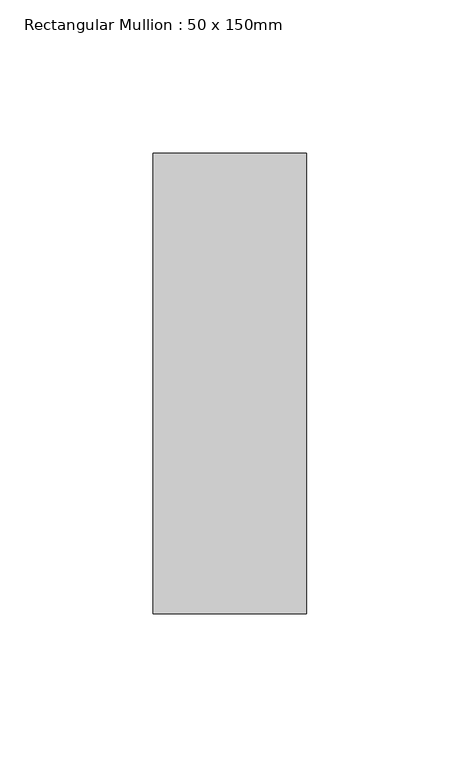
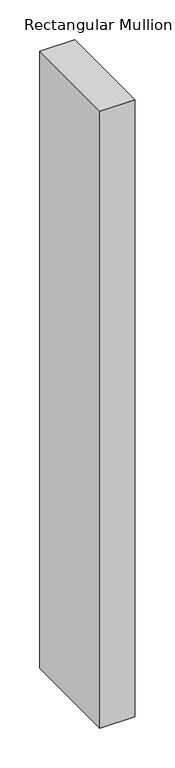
"""IFC4 building model written with IfcOpenShell, lengths in millimetres: member geometry, Rectangular Mullion : 50 x 150mm."""

from ifc_helpers import new_model, si_unit, frame, origin, place, context, project, spatial, polyline, outline, extrude, source, transform, mapped, element, save


def rectangular_mullion_50_x_150mm_8f327472(model_context):
    return source(origin(), model_context, "Body", "SweptSolid", [
        extrude(outline(polyline([(25.0, 75.0), (25.0, -75.0), (-25.0, -75.0), (-25.0, 75.0), (25.0, 75.0)])), frame((0.0, 0.0, -941.6666668), z_axis=(0.0, 0.0, 1.0), x_axis=(1.0, 0.0, 0.0)), (0.0, 0.0, 1.0), 941.6666668),
    ])


if __name__ == "__main__":
    model = new_model("IFC4")
    model_context = context("Model", 3, world=origin())
    ifc_project = project(units=[si_unit("LENGTHUNIT", "METRE", prefix="MILLI")], contexts=[model_context])
    site = spatial("IfcSite", under=ifc_project)
    building = spatial("IfcBuilding", under=site)
    placement = place(None, origin())
    rectangular_mullion_50_x_150mm_shape = rectangular_mullion_50_x_150mm_8f327472(model_context)
    element("IfcMember", 1, ObjectType="Rectangular Mullion : 50 x 150mm", at=placement, inside=building, context=model_context, shape_type="MappedRepresentation", body=[
        mapped(rectangular_mullion_50_x_150mm_shape, transform((0.0, 0.0, 0.0), x_axis=(1.0, 0.0, 0.0), y_axis=(0.0, 1.0, 0.0), z_axis=(0.0, 0.0, 1.0))),
    ])
    save(model, "model.ifc")
